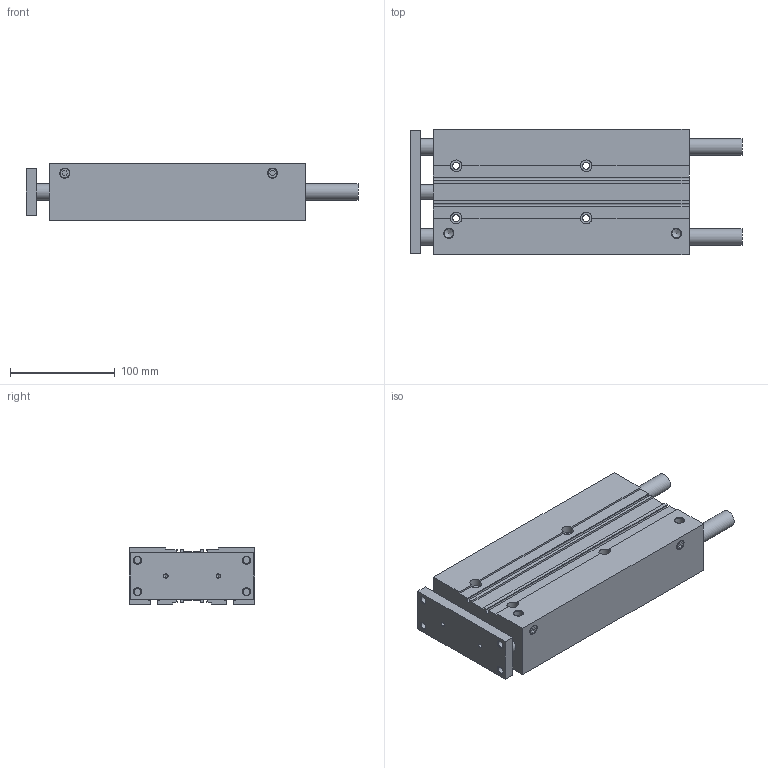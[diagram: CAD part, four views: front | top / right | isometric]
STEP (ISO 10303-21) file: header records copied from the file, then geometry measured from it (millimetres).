
FILE_DESCRIPTION(/* description */ ('STEP AP214'),/* implementation_level */ '2;1');
FILE_NAME(/* name */ 'MGPL40TF-200Z(0_0)',/* time_stamp */ '2025-09-09T08:01:25+02:00',/* author */ ('License CC BY-ND 4.0'),/* organization */ ('CADENAS'),/* preprocessor_version */ 'ST-DEVELOPER v19.3',/* originating_system */ 'PARTsolutions',/* authorisation */ ' ');
FILE_SCHEMA (('AUTOMOTIVE_DESIGN {1 0 10303 214 3 1 1}'));
Length unit declared in the file: millimetre
Products named in the file (4): MGPL40TF-200Z(0_0); MGPL40-200Z(0)_BODY; MGPL40-200Z(0)_ROD; MGP-Z_PLUG_40
Assembly tree (4 placements, depth 2):
  MGPL40TF-200Z(0_0)
    MGPL40-200Z(0)_BODY
    MGPL40-200Z(0)_ROD
    MGP-Z_PLUG_40  x2
Bounding box: 316.5 x 120 x 54 mm (x, y, z)
Volume: 1316460.4 mm3; surface area: 239667.6 mm2
Topology: 4 solids, 4 shells, 200 faces, 484 edges, 308 vertices
Faces by surface type: plane 108, cylinder 54, cone 38
Full cylindrical faces by diameter (mm): 4 x6, 6.647 x12, 6.7 x4, 8 x4, 8.566 x4, 9.728 x2, 11 x4, 14 x2, 16 x4, 40 x2
Entity records: 5105 total; most frequent: DIRECTION 880, CARTESIAN_POINT 837, ORIENTED_EDGE 718, EDGE_CURVE 359, AXIS2_PLACEMENT_3D 328, FACE_BOUND 316, EDGE_LOOP 302, VERTEX_POINT 285
